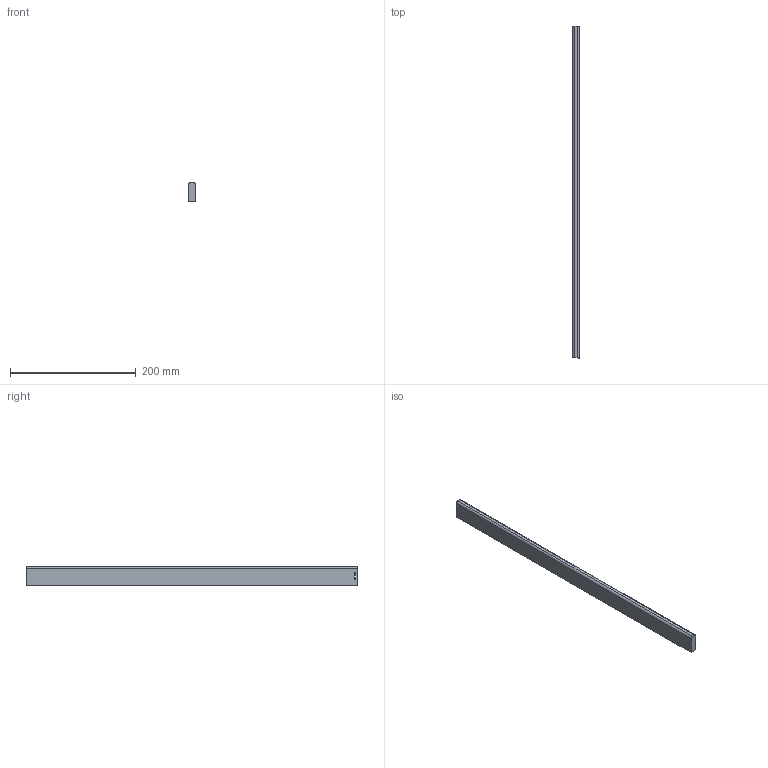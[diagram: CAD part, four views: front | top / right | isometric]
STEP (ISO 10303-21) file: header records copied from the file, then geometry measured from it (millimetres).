
FILE_DESCRIPTION (( 'STEP AP214' ), '1' );
FILE_NAME ('_Seitenreling_S760605500_RL527.step', '2010-09-06T14:51:50', ( 'grass' ), ( '' ), 'SwSTEP 2.0', 'SolidWorks 2010', '' );
FILE_SCHEMA (( 'AUTOMOTIVE_DESIGN' ));
Length unit declared in the file: millimetre
Products named in the file (1): _Seitenreling_S760605500_RL527
Bounding box: 10.5 x 527 x 30 mm (x, y, z)
Volume: 163730.6 mm3; surface area: 42164.3 mm2
Topology: 1 solids, 1 shells, 12 faces, 30 edges, 20 vertices
Faces by surface type: plane 8, cylinder 4
Entity records: 400 total; most frequent: DIRECTION 64, CARTESIAN_POINT 63, ORIENTED_EDGE 60, EDGE_CURVE 30, LINE 22, VECTOR 22, AXIS2_PLACEMENT_3D 21, VERTEX_POINT 20
